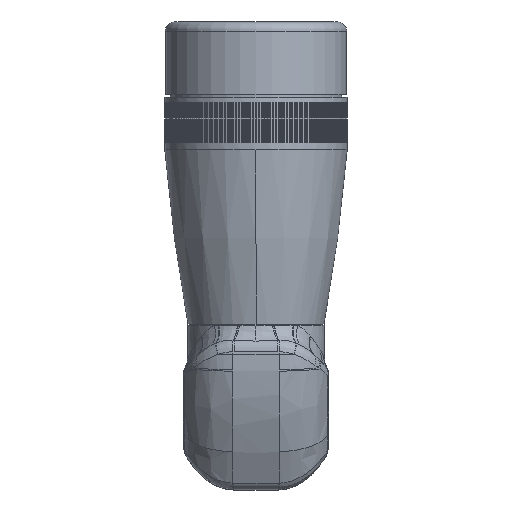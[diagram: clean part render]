
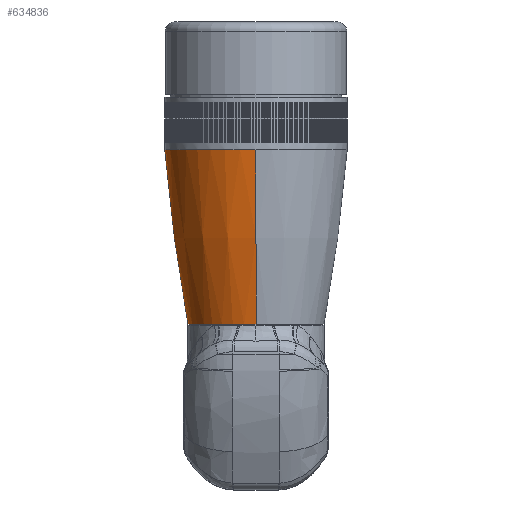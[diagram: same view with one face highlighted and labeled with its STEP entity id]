
A CAD part, front view. The second image highlights one B-rep face of the part: STEP entity #634836.
In plain terms, the highlighted face is a revolution surface.
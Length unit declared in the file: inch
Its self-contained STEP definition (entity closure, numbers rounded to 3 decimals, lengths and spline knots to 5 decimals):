
#622752=CARTESIAN_POINT('',(0.,0.,0.));
#622753=DIRECTION('',(0.,0.,-1.));
#622754=DIRECTION('',(0.,-1.,0.));
#622755=AXIS2_PLACEMENT_3D('',#622752,#622753,#622754);
#622772=CARTESIAN_POINT('',(0.,-0.503,0.9615));
#622773=CARTESIAN_POINT('',(0.,-0.49087,0.75006));
#622774=CARTESIAN_POINT('',(0.,-0.45657,
0.42835));
#622775=CARTESIAN_POINT('',(0.,-0.39819,
0.11013));
#622776=CARTESIAN_POINT('',(0.,-0.375,0.));
#622778=CARTESIAN_POINT('',(0.,0.503,0.9615));
#622779=CARTESIAN_POINT('',(0.,0.49087,0.75006));
#622780=CARTESIAN_POINT('',(0.,0.45657,
0.42835));
#622781=CARTESIAN_POINT('',(0.,0.39819,
0.11013));
#622782=CARTESIAN_POINT('',(0.,0.375,0.));
#624585=CARTESIAN_POINT('',(0.,0.,0.9615));
#624586=DIRECTION('',(0.,0.,1.));
#624587=DIRECTION('',(-1.,0.,0.));
#624588=AXIS2_PLACEMENT_3D('',#624585,#624586,#624587);
#627533=CARTESIAN_POINT('',(0.,0.,0.9615));
#627534=DIRECTION('',(0.,0.,1.));
#627535=DIRECTION('',(0.,1.,0.));
#627536=AXIS2_PLACEMENT_3D('',#627533,#627534,#627535);
#632262=CARTESIAN_POINT('',(0.,-0.375,0.));
#632263=CARTESIAN_POINT('',(0.,0.375,0.));
#632264=VERTEX_POINT('',#632262);
#632265=VERTEX_POINT('',#632263);
#632266=CARTESIAN_POINT('',(0.,0.503,0.9615));
#632267=CARTESIAN_POINT('',(-0.503,0.,0.9615));
#632268=VERTEX_POINT('',#632266);
#632269=VERTEX_POINT('',#632267);
#632272=CARTESIAN_POINT('',(0.,-0.503,0.9615));
#632273=VERTEX_POINT('',#632272);
#634813=CARTESIAN_POINT('',(0.,0.37299,-0.0095));
#634814=CARTESIAN_POINT('',(0.,0.37366,-0.00633));
#634815=CARTESIAN_POINT('',(0.,0.39761,0.10695));
#634816=CARTESIAN_POINT('',(0.,0.45657,0.42835));
#634817=CARTESIAN_POINT('',(0.,0.49122,0.75327));
#634818=CARTESIAN_POINT('',(0.,0.50337,0.96796));
#634819=CARTESIAN_POINT('',(0.,0.50355,0.97119));
#634821=CARTESIAN_POINT('',(0.,0.,-0.04808));
#634822=DIRECTION('',(0.,0.,1.));
#634823=AXIS1_PLACEMENT('',#634821,#634822);
#634824=SURFACE_OF_REVOLUTION('',#634820,#634823);
#634825=ORIENTED_EDGE('',*,*,#634800,.T.);
#634827=ORIENTED_EDGE('',*,*,#634826,.F.);
#634829=ORIENTED_EDGE('',*,*,#634828,.T.);
#634831=ORIENTED_EDGE('',*,*,#634830,.T.);
#634833=ORIENTED_EDGE('',*,*,#634832,.T.);
#634834=EDGE_LOOP('',(#634825,#634827,#634829,#634831,#634833));
#634835=FACE_OUTER_BOUND('',#634834,.F.);
#634836=ADVANCED_FACE('',(#634835),#634824,.T.);
#622756=CIRCLE('',#622755,0.375);
#622777=B_SPLINE_CURVE_WITH_KNOTS('',3,(#622772,#622773,#622774,#622775,
#622776),.UNSPECIFIED.,.F.,.F.,(4,1,4),(0.,0.65261,1.),
.UNSPECIFIED.);
#622783=B_SPLINE_CURVE_WITH_KNOTS('',3,(#622778,#622779,#622780,#622781,
#622782),.UNSPECIFIED.,.F.,.F.,(4,1,4),(0.,0.65261,1.),
.UNSPECIFIED.);
#624589=CIRCLE('',#624588,0.503);
#627537=CIRCLE('',#627536,0.503);
#634800=EDGE_CURVE('',#632264,#632265,#622756,.T.);
#634820=B_SPLINE_CURVE_WITH_KNOTS('',3,(#634813,#634814,#634815,#634816,#634817,
#634818,#634819),.UNSPECIFIED.,.F.,.F.,(4,1,1,1,4),(0.,0.00979,
0.35038,0.99022,1.),.UNSPECIFIED.);
#634826=EDGE_CURVE('',#632268,#632265,#622783,.T.);
#634828=EDGE_CURVE('',#632268,#632269,#627537,.T.);
#634830=EDGE_CURVE('',#632269,#632273,#624589,.T.);
#634832=EDGE_CURVE('',#632273,#632264,#622777,.T.);
